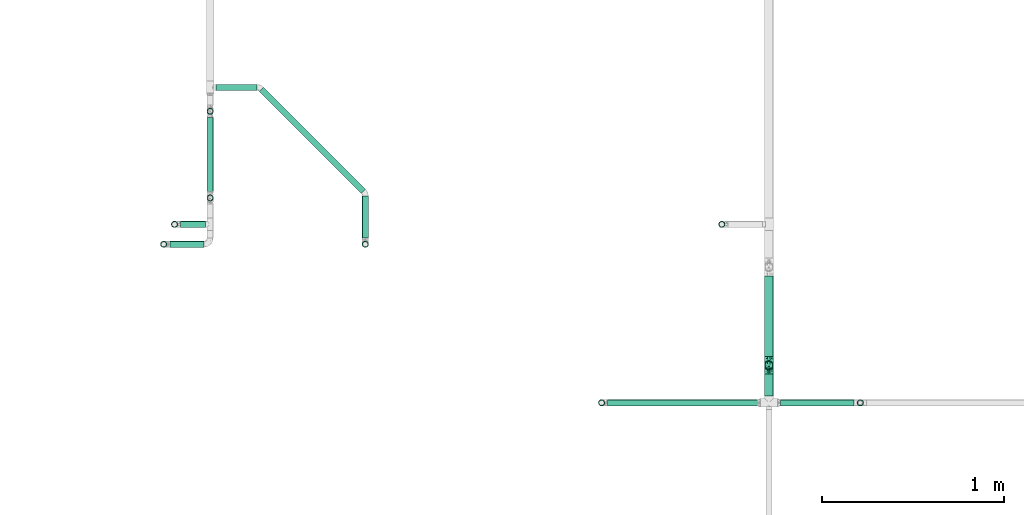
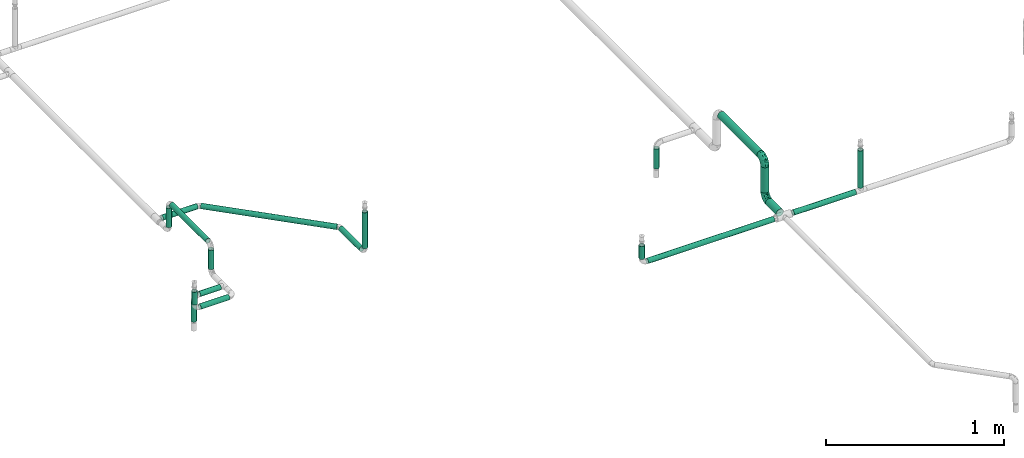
# One storey, part 4 of 157: 19 flow segments, 2 flow fittings.
"""IFC2X3 building model written with IfcOpenShell, lengths in millimetres."""

from ifc_helpers import new_model, entity, si_unit, converted_unit, derived_unit, direction, frame, origin_with_axes, origin_2d_with_axis, place, context, subcontext, project, spatial, hollow_circle, extrude, open_shell, surface_model, source, transform, mapped, type_object, element, save


model = new_model("IFC2X3")

# Units and contexts
model_context = context("Model", 3, precision=0.01, world=frame((0.0, 4.29681676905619e-09, 0.0)), true_north=direction((4.01073788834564e-13, 1.0)))
plan_context = context("Plan", 3, precision=0.01, world=frame((0.0, 4.29681676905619e-09, 0.0)), true_north=direction((4.01073788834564e-13, 1.0)))
body_context = subcontext(model_context, "Body", "Model", "MODEL_VIEW")
ifc_project = project(units=[converted_unit("PLANEANGLEUNIT", "DEGREE", entity("IfcPositiveLengthMeasure", 0.0174532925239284), si_unit("PLANEANGLEUNIT", "RADIAN"), dimensions=[0, 0, 0, 0, 0, 0, 0]), si_unit("AREAUNIT", "SQUARE_METRE"), si_unit("LENGTHUNIT", "METRE", prefix="MILLI"), si_unit("MASSUNIT", "GRAM", prefix="KILO"), si_unit("POWERUNIT", "WATT"), si_unit("PRESSUREUNIT", "PASCAL"), si_unit("FORCEUNIT", "NEWTON", prefix="KILO"), si_unit("ELECTRICCURRENTUNIT", "AMPERE"), si_unit("THERMODYNAMICTEMPERATUREUNIT", "DEGREE_CELSIUS"), si_unit("TIMEUNIT", "SECOND"), si_unit("VOLUMEUNIT", "CUBIC_METRE"), derived_unit("LINEARVELOCITYUNIT", [(si_unit("LENGTHUNIT", "METRE"), 1), (si_unit("TIMEUNIT", "SECOND"), -1)]), derived_unit("VOLUMETRICFLOWRATEUNIT", [(si_unit("VOLUMEUNIT", "CUBIC_METRE"), 1), (si_unit("TIMEUNIT", "SECOND"), -1)]), derived_unit("THERMALTRANSMITTANCEUNIT", [(si_unit("POWERUNIT", "WATT"), 1), (si_unit("THERMODYNAMICTEMPERATUREUNIT", "KELVIN"), -1), (si_unit("AREAUNIT", "SQUARE_METRE"), -1)])], contexts=[model_context, plan_context])

# Site, building, storey
site_placement = place(None, frame((0.0, -4.29681676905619e-09, 0.0), z_axis=(0.0, 0.0, 1.0), x_axis=(1.0, 0.0, 0.0)))
site = spatial("IfcSite", under=ifc_project, at=site_placement, CompositionType="ELEMENT")
building_placement = place(site_placement, frame((0.0, 4.29681676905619e-09, 0.0), z_axis=(0.0, 0.0, 1.0), x_axis=(1.0, 0.0, 0.0)))
building = spatial("IfcBuilding", under=site, at=building_placement, Name="mc-building", CompositionType="ELEMENT")
storey_placement = place(building_placement, frame((0.0, 0.0, 204000.0), z_axis=(0.0, 0.0, 1.0), x_axis=(1.0, 0.0, 0.0)))
storey = spatial("IfcBuildingStorey", under=building, at=storey_placement, Name="Nivå D", CompositionType="ELEMENT", Elevation=204000.0)

# Flow fittings
pipe_fitting_type = type_object("IfcPipeFittingType", Name="magi_pipe_fe_elbow_short_001", PredefinedType="BEND")
shared_shape_1 = source(origin_with_axes(), body_context, "Body", "SurfaceModel", [
    surface_model("IfcShellBasedSurfaceModel", [(-48.4, 6.26342, -23.37541), (-48.4, 0.0, -24.2), (-48.4, 17.11198, -17.11198), (-48.4, 12.1, -20.95781), (-48.4, 23.37541, -6.26342), (-48.4, 20.95781, -12.1), (-48.4, -12.1, -20.95781), (-48.4, -17.11198, -17.11198), (-48.4, -20.95781, -12.1), (-48.4, -6.26342, -23.37541), (-48.4, -23.37541, -6.26342), (-48.4, -24.2, 0.0), (-48.4, -23.37541, 6.26342), (-48.4, 23.37541, 6.26342), (-48.4, 6.26342, 23.37541), (-48.4, 20.95781, 12.1), (-48.4, 17.11198, 17.11198), (-48.4, 12.1, 20.95781), (-48.4, -12.1, 20.95781), (-48.4, -20.95781, 12.1), (-48.4, -17.11198, 17.11198), (-48.4, -6.26342, 23.37541), (-48.4, 0.0, 24.2), (-48.4, 24.2, 0.0), (-17.11198, 48.4, -17.11198), (0.0, 48.4, -24.2), (-6.26342, 48.4, -23.37541), (-12.1, 48.4, -20.95781), (-20.95781, 48.4, -12.1), (-23.37541, 48.4, -6.26342), (12.1, 48.4, -20.95781), (20.95781, 48.4, -12.1), (17.11198, 48.4, -17.11198), (6.26342, 48.4, -23.37541), (23.37541, 48.4, -6.26342), (23.37541, 48.4, 6.26342), (24.2, 48.4, 0.0), (-23.37541, 48.4, 6.26342), (-6.26342, 48.4, 23.37541), (-17.11198, 48.4, 17.11198), (-20.95781, 48.4, 12.1), (-12.1, 48.4, 20.95781), (12.1, 48.4, 20.95781), (17.11198, 48.4, 17.11198), (20.95781, 48.4, 12.1), (0.0, 48.4, 24.2), (6.26342, 48.4, 23.37541), (-24.2, 48.4, 0.0), (-35.50368, -18.80076, 13.58523), (-31.77913, -13.9618, 18.03279), (-34.50859, -21.43683, 0.0), (-21.39243, -15.41147, 12.21413), (-32.16301, -21.12203, 7.54749), (21.12203, 32.16301, 7.54749), (17.07617, 18.95745, 6.20374), (18.67365, 20.61718, 0.0), (-23.65565, 38.62451, 10.51816), (-20.21592, 37.67665, 15.89859), (-35.56981, -9.15108, 21.77256), (-36.96985, -3.20584, 23.78612), (-33.88786, 3.70953, 24.15875), (-8.84062, -10.8048, 0.0), (-18.95745, -17.07617, 6.20374), (-20.61718, -18.67365, 0.0), (-18.69715, -5.87343, 20.10488), (-24.09336, -0.21717, 23.45593), (-2.08262, -4.09091, 10.90396), (-0.40561, 0.49936, 14.45569), (-8.22634, -5.79523, 14.90978), (-37.83027, 20.17367, 15.88169), (-8.41063, 23.79825, 24.15658), (-17.92529, 17.92529, 23.61199), (-14.40991, 10.5752, 24.07534), (-41.86919, 14.6551, 19.71874), (-9.03342, 41.7434, 22.66763), (-3.31671, 36.19978, 24.14056), (-38.63654, 23.65174, 10.51655), (-38.25939, 25.77657, 5.32075), (-30.0475, 30.0475, 9.04616), (-37.30448, 9.49113, 22.86036), (-6.31688, 16.20853, 23.76192), (-12.02449, 4.43954, 22.59792), (-2.47225, 13.07459, 22.23951), (-4.32281, 4.32281, 19.78555), (13.9618, 31.77913, 18.03279), (15.41147, 21.39243, 12.21413), (18.80076, 35.50367, 13.58523), (-25.72741, 16.42033, 22.38358), (-26.59277, 10.36599, 23.76692), (3.20584, 36.96985, 23.78612), (9.15107, 35.56981, 21.77256), (5.87343, 18.69715, 20.10488), (21.43683, 34.50859, 0.0), (-23.74657, 5.93004, 24.18967), (-22.40302, 25.55556, 19.88516), (-33.3245, 16.42738, 20.3789), (-25.47357, 39.04012, 5.19167), (-30.32947, 31.74105, 4.25904), (11.04589, 19.60124, 16.55181), (-27.44219, 36.3, 0.0), (-10.46605, 32.79159, 23.04712), (-13.80953, 25.05111, 23.26361), (-17.54489, 31.27863, 20.33941), (-19.27982, 23.42922, 22.01925), (-14.78447, 40.57947, 19.81913), (-19.60124, -11.04589, 16.55181), (-25.09785, 32.07921, 13.69695), (-25.5093, 27.02629, 17.14196), (-31.08127, 26.00324, 13.49448), (0.21717, 24.09336, 23.45593), (5.51075, 8.40547, 15.32867), (-11.48597, -10.80284, 11.35932), (1.43689, -3.14326, 6.54995), (7.34882, 4.31024, 8.4514), (7.50574, 2.51208, 3.62663), (12.46453, 10.09451, 5.71609), (12.1504, 12.55391, 10.15678), (-36.3, 27.44219, 0.0), (-6.52237, -9.62364, 7.02633), (2.93595, -2.93595, 0.0), (10.8048, 8.84062, 0.0), (-19.60124, -11.04589, -16.55181), (-31.77913, -13.9618, -18.03279), (-18.69715, -5.87343, -20.10488), (-21.39243, -15.41147, -12.21413), (-37.67665, 20.21591, -15.89859), (-40.57947, 14.78447, -19.81913), (-39.04012, 25.47357, -5.19167), (-32.16301, -21.12203, -7.54749), (-30.0475, 30.0475, -9.04616), (-38.62452, 23.65565, -10.51816), (-18.95745, -17.07617, -6.20374), (-23.42922, 19.27982, -22.01926), (-25.05111, 13.80953, -23.26361), (-31.27863, 17.54489, -20.33941), (-14.6551, 41.86919, -19.71874), (-20.17367, 37.83026, -15.88169), (9.15108, 35.56981, -21.77256), (5.87343, 18.69715, -20.10488), (0.21717, 24.09336, -23.45593), (-41.7434, 9.03342, -22.66763), (-35.50368, -18.80076, -13.58523), (-35.56981, -9.15108, -21.77256), (-16.42033, 25.72741, -22.38358), (-9.49113, 37.30447, -22.86036), (-10.36599, 26.59277, -23.76692), (-36.96985, -3.20584, -23.78612), (-23.79826, 8.41063, -24.15658), (-17.92529, 17.92529, -23.61199), (-10.5752, 14.40991, -24.07534), (-36.19978, 3.31671, -24.14056), (-25.77657, 38.25939, -5.32075), (-23.65174, 38.63654, -10.51655), (-32.79159, 10.46605, -23.04712), (-31.74105, 30.32946, -4.25904), (-5.93004, 23.74657, -24.18967), (-25.55556, 22.40302, -19.88516), (-16.42738, 33.3245, -20.3789), (3.20584, 36.96985, -23.78612), (-3.70953, 33.88785, -24.15875), (18.80076, 35.50367, -13.58523), (13.9618, 31.77913, -18.03279), (7.50574, 2.51208, -3.62663), (12.46453, 10.09451, -5.71609), (-16.20853, 6.31688, -23.76192), (-4.43954, 12.02449, -22.59792), (-13.07459, 2.47225, -22.23951), (1.43689, -3.14326, -6.54995), (-6.52237, -9.62364, -7.02632), (-2.08262, -4.09091, -10.90396), (15.41147, 21.39243, -12.21413), (21.12203, 32.16301, -7.54749), (17.07617, 18.95745, -6.20374), (-32.07921, 25.09785, -13.69695), (11.04589, 19.60124, -16.55181), (12.1504, 12.55391, -10.15678), (5.51075, 8.40547, -15.32867), (-27.02629, 25.5093, -17.14196), (-26.00324, 31.08127, -13.49448), (-24.09336, -0.21717, -23.45593), (-4.32281, 4.32281, -19.78555), (-8.22634, -5.79524, -14.90978), (-11.48597, -10.80284, -11.35931), (-0.40561, 0.49936, -14.45569), (7.34882, 4.31024, -8.4514)], [open_shell([[[0, 1, 2]], [[3, 0, 2]], [[4, 5, 2]], [[6, 2, 1]], [[4, 2, 6]], [[7, 8, 6]], [[1, 9, 6]], [[8, 10, 6]], [[6, 10, 4]], [[11, 12, 10]], [[13, 4, 10]], [[14, 13, 10]], [[15, 13, 16]], [[13, 14, 17]], [[16, 13, 17]], [[10, 18, 14]], [[19, 20, 12]], [[20, 10, 12]], [[21, 22, 18]], [[20, 18, 10]], [[18, 22, 14]], [[23, 4, 13]], [[24, 25, 26]], [[24, 26, 27]], [[24, 28, 29]], [[25, 24, 30]], [[30, 24, 29]], [[30, 31, 32]], [[30, 33, 25]], [[30, 34, 31]], [[29, 34, 30]], [[34, 35, 36]], [[34, 29, 37]], [[34, 37, 38]], [[39, 37, 40]], [[41, 38, 37]], [[41, 37, 39]], [[38, 42, 34]], [[35, 43, 44]], [[35, 34, 43]], [[42, 45, 46]], [[34, 42, 43]], [[38, 45, 42]], [[37, 29, 47]], [[20, 48, 49]], [[12, 11, 50]], [[51, 48, 52]], [[53, 54, 55]], [[48, 20, 19]], [[12, 52, 19]], [[40, 56, 57]], [[49, 18, 20]], [[49, 58, 18]], [[22, 59, 60]], [[61, 62, 63]], [[58, 64, 65]], [[66, 67, 68]], [[15, 16, 69]], [[70, 71, 72]], [[17, 73, 16]], [[21, 59, 22]], [[38, 74, 75]], [[22, 60, 14]], [[15, 69, 76]], [[16, 73, 69]], [[23, 13, 77]], [[13, 15, 76]], [[77, 76, 78]], [[14, 79, 17]], [[80, 81, 82]], [[68, 83, 64]], [[84, 43, 42]], [[85, 86, 84]], [[87, 79, 88]], [[18, 58, 21]], [[45, 89, 46]], [[53, 35, 44]], [[45, 38, 75]], [[84, 90, 91]], [[44, 86, 53]], [[92, 35, 53]], [[86, 44, 43]], [[90, 42, 46]], [[53, 55, 92]], [[88, 93, 72]], [[54, 53, 85]], [[87, 94, 95]], [[78, 96, 97]], [[98, 84, 91]], [[99, 96, 47]], [[79, 14, 60]], [[96, 78, 56]], [[62, 52, 63]], [[57, 39, 40]], [[100, 70, 75]], [[101, 102, 103]], [[12, 50, 52]], [[104, 41, 39]], [[74, 38, 41]], [[57, 102, 104]], [[105, 64, 49]], [[90, 84, 42]], [[40, 37, 56]], [[56, 106, 57]], [[102, 57, 107]], [[95, 107, 69]], [[76, 108, 78]], [[100, 101, 70]], [[89, 75, 109]], [[64, 58, 49]], [[63, 52, 50]], [[59, 58, 65]], [[105, 49, 51]], [[64, 83, 81]], [[89, 90, 46]], [[36, 35, 92]], [[109, 82, 91]], [[109, 91, 90]], [[91, 83, 110]], [[111, 68, 105]], [[66, 68, 111]], [[62, 51, 52]], [[66, 112, 113]], [[114, 115, 113]], [[98, 85, 84]], [[52, 48, 19]], [[49, 48, 51]], [[84, 86, 43]], [[53, 86, 85]], [[88, 79, 60]], [[73, 79, 95]], [[96, 56, 37]], [[78, 108, 106]], [[87, 103, 94]], [[100, 74, 104]], [[108, 69, 107]], [[78, 97, 77]], [[88, 72, 71]], [[109, 75, 70]], [[81, 72, 65]], [[70, 72, 80]], [[75, 89, 45]], [[90, 89, 109]], [[58, 59, 21]], [[60, 59, 65]], [[67, 83, 68]], [[110, 113, 116]], [[88, 60, 93]], [[87, 88, 71]], [[103, 87, 71]], [[79, 87, 95]], [[101, 103, 71]], [[94, 103, 102]], [[47, 96, 37]], [[96, 99, 97]], [[99, 117, 97]], [[97, 117, 77]], [[23, 77, 117]], [[13, 76, 77]], [[60, 65, 93]], [[65, 72, 93]], [[70, 101, 71]], [[102, 101, 100]], [[69, 108, 76]], [[106, 108, 107]], [[57, 106, 107]], [[78, 106, 56]], [[57, 104, 39]], [[100, 104, 102]], [[102, 107, 94]], [[95, 94, 107]], [[64, 81, 65]], [[82, 81, 83]], [[91, 82, 83]], [[80, 82, 109]], [[70, 80, 109]], [[81, 80, 72]], [[79, 73, 17]], [[69, 73, 95]], [[104, 74, 41]], [[75, 74, 100]], [[62, 61, 118]], [[111, 62, 118]], [[113, 115, 116]], [[119, 118, 61]], [[111, 105, 51]], [[113, 112, 114]], [[120, 55, 54]], [[68, 64, 105]], [[91, 110, 98]], [[116, 98, 110]], [[62, 111, 51]], [[66, 111, 118]], [[112, 66, 118]], [[67, 113, 110]], [[118, 119, 112]], [[114, 112, 119]], [[119, 120, 114]], [[115, 120, 54]], [[120, 115, 114]], [[116, 54, 85]], [[54, 116, 115]], [[116, 85, 98]], [[113, 67, 66]], [[83, 67, 110]], [[121, 122, 123]], [[122, 121, 124]], [[5, 125, 2]], [[2, 126, 3]], [[117, 127, 23]], [[50, 10, 128]], [[127, 129, 130]], [[128, 131, 63]], [[132, 133, 134]], [[24, 135, 136]], [[137, 138, 139]], [[3, 140, 0]], [[128, 8, 141]], [[142, 6, 9]], [[128, 63, 50]], [[5, 4, 130]], [[8, 7, 141]], [[143, 144, 145]], [[146, 9, 1]], [[147, 148, 149]], [[8, 128, 10]], [[124, 141, 122]], [[150, 1, 0]], [[151, 152, 129]], [[125, 134, 126]], [[153, 147, 150]], [[127, 154, 129]], [[145, 155, 149]], [[47, 29, 151]], [[143, 156, 157]], [[152, 29, 28]], [[25, 158, 159]], [[122, 7, 6]], [[24, 27, 135]], [[144, 27, 26]], [[32, 160, 161]], [[25, 33, 158]], [[120, 162, 163]], [[130, 125, 5]], [[24, 136, 28]], [[0, 140, 150]], [[30, 161, 137]], [[142, 122, 6]], [[25, 159, 26]], [[164, 165, 166]], [[167, 168, 169]], [[31, 160, 32]], [[161, 30, 32]], [[170, 160, 171]], [[131, 128, 124]], [[36, 92, 34]], [[34, 92, 171]], [[172, 171, 55]], [[34, 171, 31]], [[144, 26, 159]], [[130, 173, 125]], [[174, 175, 176]], [[136, 152, 28]], [[30, 137, 33]], [[122, 142, 123]], [[134, 125, 177]], [[157, 177, 136]], [[152, 178, 129]], [[153, 133, 147]], [[146, 150, 179]], [[146, 142, 9]], [[11, 10, 50]], [[179, 166, 123]], [[179, 123, 142]], [[123, 180, 181]], [[138, 137, 161]], [[55, 171, 92]], [[158, 137, 139]], [[174, 161, 170]], [[138, 180, 165]], [[180, 138, 176]], [[124, 121, 182]], [[176, 183, 180]], [[61, 131, 168]], [[169, 168, 182]], [[172, 170, 171]], [[122, 141, 7]], [[128, 141, 124]], [[171, 160, 31]], [[161, 160, 170]], [[145, 144, 159]], [[135, 144, 157]], [[127, 130, 4]], [[129, 178, 173]], [[143, 132, 156]], [[153, 140, 126]], [[178, 136, 177]], [[129, 154, 151]], [[145, 149, 148]], [[179, 150, 147]], [[165, 149, 139]], [[147, 149, 164]], [[150, 146, 1]], [[142, 146, 179]], [[137, 158, 33]], [[159, 158, 139]], [[174, 138, 161]], [[184, 169, 183]], [[145, 159, 155]], [[143, 145, 148]], [[132, 143, 148]], [[144, 143, 157]], [[133, 132, 148]], [[156, 132, 134]], [[23, 127, 4]], [[127, 117, 154]], [[117, 99, 154]], [[154, 99, 151]], [[47, 151, 99]], [[29, 152, 151]], [[159, 139, 155]], [[139, 149, 155]], [[147, 133, 148]], [[134, 133, 153]], [[136, 178, 152]], [[173, 178, 177]], [[125, 173, 177]], [[129, 173, 130]], [[125, 126, 2]], [[153, 126, 134]], [[134, 177, 156]], [[157, 156, 177]], [[138, 165, 139]], [[166, 165, 180]], [[123, 166, 180]], [[164, 166, 179]], [[147, 164, 179]], [[165, 164, 149]], [[144, 135, 27]], [[136, 135, 157]], [[126, 140, 3]], [[150, 140, 153]], [[182, 131, 124]], [[168, 119, 61]], [[119, 167, 162]], [[63, 131, 61]], [[172, 163, 175]], [[172, 55, 120]], [[123, 181, 121]], [[182, 121, 181]], [[175, 174, 170]], [[176, 138, 174]], [[169, 182, 181]], [[131, 182, 168]], [[183, 169, 181]], [[167, 169, 184]], [[162, 167, 184]], [[119, 168, 167]], [[163, 162, 184]], [[120, 119, 162]], [[175, 163, 184]], [[120, 163, 172]], [[176, 175, 184]], [[172, 175, 170]], [[180, 183, 181]], [[184, 183, 176]]])]),
])
for number, where, z_axis, x_axis, name in (
    (1, (527758.2357, 407427.85002, 3150.0), (1.0, 0.0, 0.0), (0.0, -1.0, 0.0), "magi_pipe_fe_elbow_short_001"),
    (2, (527758.2357, 407427.85002, 2880.0), (-1.0, 0.0, 0.0), (0.0, 0.0, -1.0), "magi_pipe_fe_elbow_short_001"),
):
    element("IfcFlowFitting", number, at=place(storey_placement, frame(where, z_axis=z_axis, x_axis=x_axis)), inside=storey, type_object=pipe_fitting_type, Name=name, context=body_context, shape_type="MappedRepresentation", body=[
        mapped(shared_shape_1, transform((0.0, 0.0, 0.0), scale=1.0)),
    ])

# Flow segments
pipe_segment_type = type_object("IfcPipeSegmentType", Name="Stålrør normaltykke", PredefinedType="RIGIDSEGMENT")
shared_shape_2 = source(origin_with_axes(), body_context, "Body", "SweptSolid", [
    extrude(hollow_circle(Radius=16.9, WallThickness=2.0, at=origin_2d_with_axis()), frame((0.0, 0.0, 0.0), z_axis=(1.0, 0.0, 0.0), x_axis=(0.0, 1.0, 0.0)), (0.0, 0.0, 1.0), 135.9),
])
flow_segment_1_placement = place(storey_placement, frame((524533.8, 408200.0, 2880.0), z_axis=(0.0, 0.0, 1.0), x_axis=(1.0, 0.0, 0.0)))
element("IfcFlowSegment", 3, at=flow_segment_1_placement, inside=storey, type_object=pipe_segment_type, Name="Stålrør normaltykke", context=body_context, shape_type="MappedRepresentation", body=[
    mapped(shared_shape_2, transform((0.0, 0.0, 0.0), scale=1.0)),
])
shared_shape_3 = source(origin_with_axes(), body_context, "Body", "SweptSolid", [
    extrude(hollow_circle(Radius=16.9, WallThickness=2.0, at=origin_2d_with_axis()), frame((0.0, 0.0, 0.0), z_axis=(1.0, 0.0, 0.0), x_axis=(0.0, 1.0, 0.0)), (0.0, 0.0, 1.0), 88.3),
])
flow_segment_2_placement = place(storey_placement, frame((524440.35, 408090.6375, 3002.14799999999), z_axis=(0.0, -1.0, 0.0), x_axis=(0.0, 0.0, -1.0)))
element("IfcFlowSegment", 4, at=flow_segment_2_placement, inside=storey, type_object=pipe_segment_type, Name="Stålrør normaltykke", context=body_context, shape_type="MappedRepresentation", body=[
    mapped(shared_shape_3, transform((0.0, 0.0, 0.0), scale=1.0)),
])
shared_shape_4 = source(origin_with_axes(), body_context, "Body", "SweptSolid", [
    extrude(hollow_circle(Radius=16.9, WallThickness=2.0, at=origin_2d_with_axis()), frame((0.0, 0.0, 0.0), z_axis=(1.0, 0.0, 0.0), x_axis=(0.0, 1.0, 0.0)), (0.0, 0.0, 1.0), 187.4),
])
flow_segment_3_placement = place(storey_placement, frame((524474.15, 408090.6375, 2880.0), z_axis=(0.0, 0.0, 1.0), x_axis=(1.0, 0.0, 0.0)))
element("IfcFlowSegment", 5, at=flow_segment_3_placement, inside=storey, type_object=pipe_segment_type, Name="Stålrør normaltykke", context=body_context, shape_type="MappedRepresentation", body=[
    mapped(shared_shape_4, transform((0.0, 0.0, 0.0), scale=1.0, scale2=1.0, scale3=1.0, uniform=False)),
])
shared_shape_5 = source(origin_with_axes(), body_context, "Body", "SweptSolid", [
    extrude(hollow_circle(Radius=16.9, WallThickness=2.0, at=origin_2d_with_axis()), frame((0.0, 0.0, 0.0), z_axis=(1.0, 0.0, 0.0), x_axis=(0.0, 1.0, 0.0)), (0.0, 0.0, 1.0), 89.3),
])
flow_segment_4_placement = place(storey_placement, frame((526840.89876, 407221.65002, 2913.79999999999), z_axis=(0.0, 1.0, 0.0), x_axis=(0.0, 0.0, 1.0)))
element("IfcFlowSegment", 6, at=flow_segment_4_placement, inside=storey, type_object=pipe_segment_type, Name="Stålrør normaltykke", context=body_context, shape_type="MappedRepresentation", body=[
    mapped(shared_shape_5, transform((0.0, 0.0, 0.0), scale=1.0)),
])
shared_shape_6 = source(origin_with_axes(), body_context, "Body", "SweptSolid", [
    extrude(hollow_circle(Radius=16.9, WallThickness=2.0, at=origin_2d_with_axis()), frame((0.0, 0.0, 0.0), z_axis=(1.0, 0.0, 0.0), x_axis=(0.0, 1.0, 0.0)), (0.0, 0.0, 1.0), 246.3),
])
flow_segment_5_placement = place(storey_placement, frame((525545.79264, 408090.6375, 3160.14799999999), z_axis=(0.0, -1.0, 0.0), x_axis=(0.0, 0.0, -1.0)))
element("IfcFlowSegment", 7, at=flow_segment_5_placement, inside=storey, type_object=pipe_segment_type, Name="Stålrør normaltykke", context=body_context, shape_type="MappedRepresentation", body=[
    mapped(shared_shape_6, transform((0.0, 0.0, 0.0), scale=1.0)),
])
shared_shape_7 = source(origin_with_axes(), body_context, "Body", "SweptSolid", [
    extrude(hollow_circle(Radius=16.9, WallThickness=2.0, at=origin_2d_with_axis()), frame((0.0, 0.0, 0.0), z_axis=(1.0, 0.0, 0.0), x_axis=(0.0, 1.0, 0.0)), (0.0, 0.0, 1.0), 136.8),
])
for number, where, z_axis, x_axis in (
    (8, (524500.0, 408200.0, 2846.20000000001), (-1.0, 0.0, 0.0), (0.0, 0.0, -1.0)),
    (9, (527500.0, 408200.0, 2709.35200000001), (0.0, 1.0, 0.0), (0.0, 0.0, 1.0)),
):
    element("IfcFlowSegment", number, at=place(storey_placement, frame(where, z_axis=z_axis, x_axis=x_axis)), inside=storey, type_object=pipe_segment_type, Name="Stålrør normaltykke", context=body_context, shape_type="MappedRepresentation", body=[
        mapped(shared_shape_7, transform((0.0, 0.0, 0.0), scale=1.0)),
    ])
shared_shape_8 = source(origin_with_axes(), body_context, "Body", "SweptSolid", [
    extrude(hollow_circle(Radius=16.9, WallThickness=2.0, at=origin_2d_with_axis()), frame((0.0, 0.0, 0.0), z_axis=(1.0, 0.0, 0.0), x_axis=(0.0, 1.0, 0.0)), (0.0, 0.0, 1.0), 404.5),
])
flow_segment_6_placement = place(storey_placement, frame((527821.2357, 407221.65002, 2880.0), z_axis=(0.0, 0.0, 1.0), x_axis=(1.0, 0.0, 0.0)))
element("IfcFlowSegment", 10, at=flow_segment_6_placement, inside=storey, type_object=pipe_segment_type, Name="Stålrør normaltykke", context=body_context, shape_type="MappedRepresentation", body=[
    mapped(shared_shape_8, transform((0.0, 0.0, 0.0), scale=1.0)),
])
shared_shape_9 = source(origin_with_axes(), body_context, "Body", "SweptSolid", [
    extrude(hollow_circle(Radius=16.9, WallThickness=2.0, at=origin_2d_with_axis()), frame((0.0, 0.0, 0.0), z_axis=(1.0, 0.0, 0.0), x_axis=(0.0, 1.0, 0.0)), (0.0, 0.0, 1.0), 407.0),
])
flow_segment_7_placement = place(storey_placement, frame((524695.35, 408785.91922, 3080.0), z_axis=(0.0, 0.0, 1.0), x_axis=(0.0, -1.0, 0.0)))
element("IfcFlowSegment", 11, at=flow_segment_7_placement, inside=storey, type_object=pipe_segment_type, Name="Stålrør normaltykke", context=body_context, shape_type="MappedRepresentation", body=[
    mapped(shared_shape_9, transform((0.0, 0.0, 0.0), scale=1.0)),
])
shared_shape_10 = source(origin_with_axes(), body_context, "Body", "SweptSolid", [
    extrude(hollow_circle(Radius=16.9, WallThickness=2.0, at=origin_2d_with_axis()), frame((0.0, 0.0, 0.0), z_axis=(1.0, 0.0, 0.0), x_axis=(0.0, 1.0, 0.0)), (0.0, 0.0, 1.0), 132.4),
])
for number, where, z_axis, x_axis in (
    (12, (524695.35, 408819.71922, 2913.79999999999), (-1.0, 0.0, 0.0), (0.0, 0.0, 1.0)),
    (13, (524695.35, 408344.71922, 3046.20000000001), (-1.0, 0.0, 0.0), (0.0, 0.0, -1.0)),
):
    element("IfcFlowSegment", number, at=place(storey_placement, frame(where, z_axis=z_axis, x_axis=x_axis)), inside=storey, type_object=pipe_segment_type, Name="Stålrør normaltykke", context=body_context, shape_type="MappedRepresentation", body=[
        mapped(shared_shape_10, transform((0.0, 0.0, 0.0), scale=1.0)),
    ])
shared_shape_11 = source(origin_with_axes(), body_context, "Body", "SweptSolid", [
    extrude(hollow_circle(Radius=16.9, WallThickness=2.0, at=origin_2d_with_axis()), frame((0.0, 0.0, 0.0), z_axis=(1.0, 0.0, 0.0), x_axis=(0.0, 1.0, 0.0)), (0.0, 0.0, 1.0), 232.2),
])
flow_segment_8_placement = place(storey_placement, frame((525545.79264, 408124.4375, 2880.0), z_axis=(0.0, 0.0, 1.0), x_axis=(0.0, 1.0, 0.0)))
element("IfcFlowSegment", 14, at=flow_segment_8_placement, inside=storey, type_object=pipe_segment_type, Name="Stålrør normaltykke", context=body_context, shape_type="MappedRepresentation", body=[
    mapped(shared_shape_11, transform((0.0, 0.0, 0.0), scale=1.0)),
])
shared_shape_12 = source(origin_with_axes(), body_context, "Body", "SweptSolid", [
    extrude(hollow_circle(Radius=16.9, WallThickness=2.0, at=origin_2d_with_axis()), frame((0.0, 0.0, 0.0), z_axis=(1.0, 0.0, 0.0), x_axis=(0.0, 1.0, 0.0)), (0.0, 0.0, 1.0), 224.6),
])
flow_segment_9_placement = place(storey_placement, frame((524727.15, 408950.6375, 2880.0), z_axis=(0.0, 0.0, 1.0), x_axis=(1.0, 0.0, 0.0)))
element("IfcFlowSegment", 15, at=flow_segment_9_placement, inside=storey, type_object=pipe_segment_type, Name="Stålrør normaltykke", context=body_context, shape_type="MappedRepresentation", body=[
    mapped(shared_shape_12, transform((0.0, 0.0, 0.0), scale=1.0)),
])
shared_shape_13 = source(origin_with_axes(), body_context, "Body", "SweptSolid", [
    extrude(hollow_circle(Radius=16.9, WallThickness=2.0, at=origin_2d_with_axis()), frame((0.0, 0.0, 0.0), z_axis=(1.0, 0.0, 0.0), x_axis=(0.0, 1.0, 0.0)), (0.0, 0.0, 1.0), 792.2),
])
flow_segment_10_placement = place(storey_placement, frame((524975.69243, 408940.73771, 2880.0), z_axis=(0.0, 0.0, 1.0), x_axis=(0.707106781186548, -0.707106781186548, 0.0)))
element("IfcFlowSegment", 16, at=flow_segment_10_placement, inside=storey, type_object=pipe_segment_type, Name="Stålrør normaltykke", context=body_context, shape_type="MappedRepresentation", body=[
    mapped(shared_shape_13, transform((0.0, 0.0, 0.0), scale=1.0)),
])
shared_shape_14 = source(origin_with_axes(), body_context, "Body", "SweptSolid", [
    extrude(hollow_circle(Radius=24.1, WallThickness=2.0, at=origin_2d_with_axis()), frame((0.0, 0.0, 0.0), z_axis=(1.0, 0.0, 0.0), x_axis=(0.0, 1.0, 0.0)), (0.0, 0.0, 1.0), 173.2),
])
flow_segment_11_placement = place(storey_placement, frame((527758.2357, 407427.85002, 3101.60000000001), z_axis=(-1.0, 0.0, 0.0), x_axis=(0.0, 0.0, -1.0)))
element("IfcFlowSegment", 17, at=flow_segment_11_placement, inside=storey, type_object=pipe_segment_type, Name="Stålrør normaltykke", context=body_context, shape_type="MappedRepresentation", body=[
    mapped(shared_shape_14, transform((0.0, 0.0, 0.0), scale=1.0)),
])
shared_shape_15 = source(origin_with_axes(), body_context, "Body", "SweptSolid", [
    extrude(hollow_circle(Radius=24.1, WallThickness=2.0, at=origin_2d_with_axis()), frame((0.0, 0.0, 0.0), z_axis=(1.0, 0.0, 0.0), x_axis=(0.0, 1.0, 0.0)), (0.0, 0.0, 1.0), 441.5),
])
flow_segment_12_placement = place(storey_placement, frame((527758.2357, 407917.8, 3150.0), z_axis=(0.0, 0.0, 1.0), x_axis=(0.0, -1.0, 0.0)))
element("IfcFlowSegment", 18, at=flow_segment_12_placement, inside=storey, type_object=pipe_segment_type, Name="Stålrør normaltykke", context=body_context, shape_type="MappedRepresentation", body=[
    mapped(shared_shape_15, transform((0.0, 0.0, 0.0), scale=1.0)),
])
shared_shape_16 = source(origin_with_axes(), body_context, "Body", "SweptSolid", [
    extrude(hollow_circle(Radius=16.9, WallThickness=2.0, at=origin_2d_with_axis()), frame((0.0, 0.0, 0.0), z_axis=(1.0, 0.0, 0.0), x_axis=(0.0, 1.0, 0.0)), (0.0, 0.0, 1.0), 255.8),
])
flow_segment_13_placement = place(storey_placement, frame((528259.57985, 407221.65, 3161.14799999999), z_axis=(0.0, 1.0, 0.0), x_axis=(0.0, 0.0, -1.0)))
element("IfcFlowSegment", 19, at=flow_segment_13_placement, inside=storey, type_object=pipe_segment_type, Name="Stålrør normaltykke", context=body_context, shape_type="MappedRepresentation", body=[
    mapped(shared_shape_16, transform((0.0, 0.0, 0.0), scale=1.0)),
])
shared_shape_17 = source(origin_with_axes(), body_context, "Body", "SweptSolid", [
    extrude(hollow_circle(Radius=16.9, WallThickness=2.0, at=origin_2d_with_axis()), frame((0.0, 0.0, 0.0), z_axis=(1.0, 0.0, 0.0), x_axis=(0.0, 1.0, 0.0)), (0.0, 0.0, 1.0), 820.5),
])
flow_segment_14_placement = place(storey_placement, frame((526874.69876, 407221.65002, 2880.0), z_axis=(0.0, 0.0, 1.0), x_axis=(1.0, 0.0, 0.0)))
element("IfcFlowSegment", 20, at=flow_segment_14_placement, inside=storey, type_object=pipe_segment_type, Name="Stålrør normaltykke", context=body_context, shape_type="MappedRepresentation", body=[
    mapped(shared_shape_17, transform((0.0, 0.0, 0.0), scale=1.0)),
])
shared_shape_18 = source(origin_with_axes(), body_context, "Body", "SweptSolid", [
    extrude(hollow_circle(Radius=24.1, WallThickness=2.0, at=origin_2d_with_axis()), frame((0.0, 0.0, 0.0), z_axis=(1.0, 0.0, 0.0), x_axis=(0.0, 1.0, 0.0)), (0.0, 0.0, 1.0), 121.5),
])
flow_segment_15_placement = place(storey_placement, frame((527758.2357, 407379.45002, 2880.0), z_axis=(0.0, 0.0, 1.0), x_axis=(0.0, -1.0, 0.0)))
element("IfcFlowSegment", 21, at=flow_segment_15_placement, inside=storey, type_object=pipe_segment_type, Name="Stålrør normaltykke", context=body_context, shape_type="MappedRepresentation", body=[
    mapped(shared_shape_18, transform((0.0, 0.0, 0.0), scale=1.0)),
])

save(model, "model.ifc")
